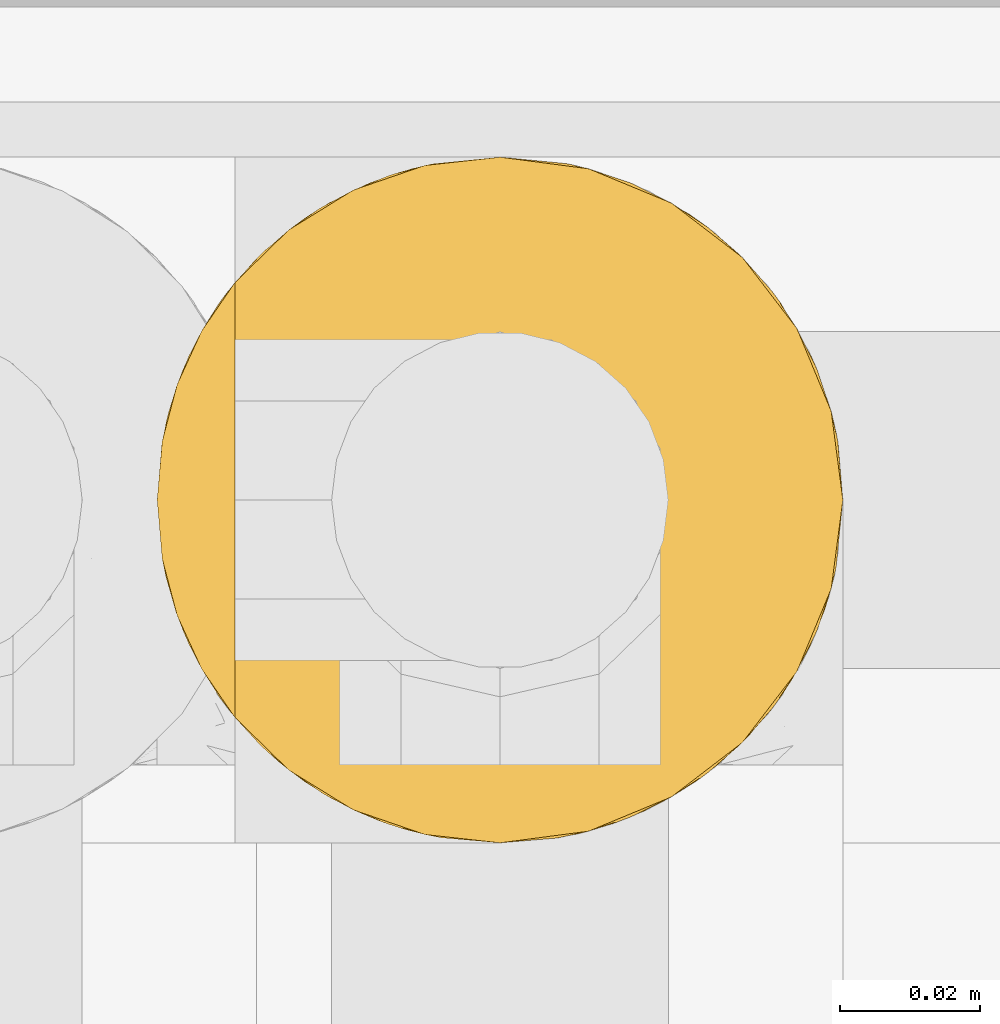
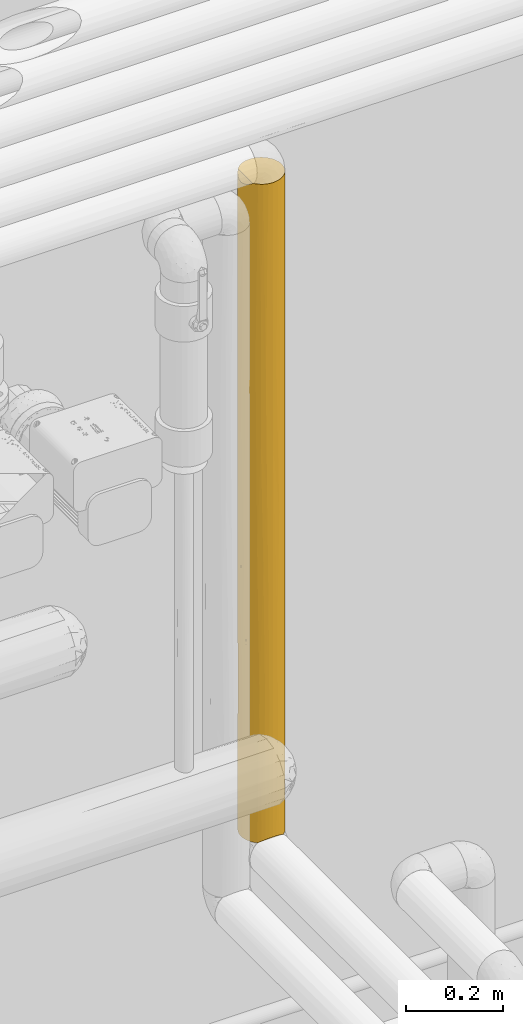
# One storey, part 9 of 94: 1 covering.
"""IFC2X3 building model written with IfcOpenShell, lengths in millimetres."""

from ifc_helpers import new_model, entity, si_unit, converted_unit, derived_unit, direction, frame, origin, place, context, subcontext, project, spatial, faceted_brep, material, element, save


model = new_model("IFC2X3")

# Units and contexts
model_context = context("Model", 3, precision=0.01, world=origin(), true_north=direction((6.123031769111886e-17, 1.0)))
body_context = subcontext(model_context, "Body", "Model", "MODEL_VIEW")
ifc_project = project(units=[si_unit("LENGTHUNIT", "METRE", prefix="MILLI"), si_unit("AREAUNIT", "SQUARE_METRE"), si_unit("VOLUMEUNIT", "CUBIC_METRE"), converted_unit("PLANEANGLEUNIT", "DEGREE", entity("IfcRatioMeasure", 0.017453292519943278), si_unit("PLANEANGLEUNIT", "RADIAN"), dimensions=[0, 0, 0, 0, 0, 0, 0]), si_unit("MASSUNIT", "GRAM", prefix="KILO"), derived_unit("MASSDENSITYUNIT", [(si_unit("MASSUNIT", "GRAM", prefix="KILO"), 1), (si_unit("LENGTHUNIT", "METRE"), -3)]), derived_unit("IONCONCENTRATIONUNIT", [(si_unit("MASSUNIT", "GRAM", prefix="KILO"), 1), (si_unit("LENGTHUNIT", "METRE"), -3)]), derived_unit("MOMENTOFINERTIAUNIT", [(si_unit("LENGTHUNIT", "METRE"), 4)]), si_unit("TIMEUNIT", "SECOND"), si_unit("FREQUENCYUNIT", "HERTZ"), si_unit("THERMODYNAMICTEMPERATUREUNIT", "DEGREE_CELSIUS"), derived_unit("THERMALTRANSMITTANCEUNIT", [(si_unit("MASSUNIT", "GRAM", prefix="KILO"), 1), (si_unit("THERMODYNAMICTEMPERATUREUNIT", "KELVIN"), -1), (si_unit("TIMEUNIT", "SECOND"), -3)]), derived_unit("THERMALCONDUCTANCEUNIT", [(si_unit("MASSUNIT", "GRAM", prefix="KILO"), 1), (si_unit("THERMODYNAMICTEMPERATUREUNIT", "KELVIN"), -1), (si_unit("TIMEUNIT", "SECOND"), -3), (si_unit("LENGTHUNIT", "METRE"), 1)]), derived_unit("VOLUMETRICFLOWRATEUNIT", [(si_unit("LENGTHUNIT", "METRE"), 3), (si_unit("TIMEUNIT", "SECOND"), -1)]), derived_unit("MASSFLOWRATEUNIT", [(si_unit("MASSUNIT", "GRAM", prefix="KILO"), 1), (si_unit("TIMEUNIT", "SECOND"), -1)]), derived_unit("ROTATIONALFREQUENCYUNIT", [(si_unit("TIMEUNIT", "SECOND"), -1)]), si_unit("ELECTRICCURRENTUNIT", "AMPERE"), si_unit("ELECTRICVOLTAGEUNIT", "VOLT"), si_unit("POWERUNIT", "WATT"), si_unit("FORCEUNIT", "NEWTON", prefix="KILO"), si_unit("ILLUMINANCEUNIT", "LUX"), si_unit("LUMINOUSFLUXUNIT", "LUMEN"), si_unit("LUMINOUSINTENSITYUNIT", "CANDELA"), derived_unit("USERDEFINED", [(si_unit("MASSUNIT", "GRAM", prefix="KILO"), -1), (si_unit("LENGTHUNIT", "METRE"), -2), (si_unit("TIMEUNIT", "SECOND"), 3), (si_unit("LUMINOUSFLUXUNIT", "LUMEN"), 1)]), derived_unit("USERDEFINED", [(si_unit("MASSUNIT", "GRAM", prefix="KILO"), 1), (si_unit("TIMEUNIT", "SECOND"), -3), (si_unit("LENGTHUNIT", "METRE"), 3), (si_unit("ELECTRICCURRENTUNIT", "AMPERE"), -2)]), derived_unit("SOUNDPOWERUNIT", [(si_unit("MASSUNIT", "GRAM", prefix="KILO"), 1), (si_unit("TIMEUNIT", "SECOND"), -3), (si_unit("LENGTHUNIT", "METRE"), 2)]), derived_unit("SOUNDPRESSUREUNIT", [(si_unit("MASSUNIT", "GRAM", prefix="KILO"), 1), (si_unit("LENGTHUNIT", "METRE"), -1), (si_unit("TIMEUNIT", "SECOND"), -2)]), derived_unit("LINEARVELOCITYUNIT", [(si_unit("LENGTHUNIT", "METRE"), 1), (si_unit("TIMEUNIT", "SECOND"), -1)]), si_unit("PRESSUREUNIT", "PASCAL"), derived_unit("USERDEFINED", [(si_unit("MASSUNIT", "GRAM", prefix="KILO"), 1), (si_unit("LENGTHUNIT", "METRE"), -2), (si_unit("TIMEUNIT", "SECOND"), -2)]), derived_unit("LINEARFORCEUNIT", [(si_unit("MASSUNIT", "GRAM", prefix="KILO"), 1), (si_unit("TIMEUNIT", "SECOND"), -2)]), derived_unit("PLANARFORCEUNIT", [(si_unit("MASSUNIT", "GRAM", prefix="KILO"), 1), (si_unit("LENGTHUNIT", "METRE"), -1), (si_unit("TIMEUNIT", "SECOND"), -2)]), derived_unit("SPECIFICHEATCAPACITYUNIT", [(si_unit("THERMODYNAMICTEMPERATUREUNIT", "KELVIN"), -1), (si_unit("LENGTHUNIT", "METRE"), 2), (si_unit("TIMEUNIT", "SECOND"), -2)]), derived_unit("HEATINGVALUEUNIT", [(si_unit("LENGTHUNIT", "METRE"), 2), (si_unit("TIMEUNIT", "SECOND"), -2)]), derived_unit("VAPORPERMEABILITYUNIT", [(si_unit("LENGTHUNIT", "METRE"), -1), (si_unit("TIMEUNIT", "SECOND"), 1)]), derived_unit("DYNAMICVISCOSITYUNIT", [(si_unit("MASSUNIT", "GRAM", prefix="KILO"), 1), (si_unit("TIMEUNIT", "SECOND"), -1), (si_unit("LENGTHUNIT", "METRE"), -1)]), derived_unit("THERMALEXPANSIONCOEFFICIENTUNIT", [(si_unit("THERMODYNAMICTEMPERATUREUNIT", "KELVIN"), -1)]), derived_unit("MODULUSOFELASTICITYUNIT", [(si_unit("MASSUNIT", "GRAM", prefix="KILO"), 1), (si_unit("LENGTHUNIT", "METRE"), -1), (si_unit("TIMEUNIT", "SECOND"), -2)]), derived_unit("ISOTHERMALMOISTURECAPACITYUNIT", [(si_unit("LENGTHUNIT", "METRE"), 3), (si_unit("MASSUNIT", "GRAM", prefix="KILO"), -1)]), derived_unit("MOISTUREDIFFUSIVITYUNIT", [(si_unit("TIMEUNIT", "SECOND"), -1), (si_unit("LENGTHUNIT", "METRE"), 2)])], contexts=[model_context])

# Site, building, storey
site_placement = place(None, origin())
site = spatial("IfcSite", under=ifc_project, at=site_placement, Name="Default", CompositionType="ELEMENT")
building_placement = place(site_placement, origin())
building = spatial("IfcBuilding", under=site, at=building_placement, CompositionType="ELEMENT")
storey_placement = place(building_placement, origin())
storey = spatial("IfcBuildingStorey", under=building, at=storey_placement, Name="Niveau 0", CompositionType="ELEMENT", Elevation=0.0)

# Covering
ifc_material = material(Name="Isolation - Laine minérale")
covering_placement = place(storey_placement, frame((-6977.465954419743, 9976.120352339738, 2313.595272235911)))
element("IfcCovering", 1, at=covering_placement, inside=storey, material=ifc_material, Name="Isolation des canalisations:Laine minérale", ObjectType="Isolation des canalisations:Laine minérale", PredefinedType="INSULATION", context=body_context, shape_type="Brep", body=[
    faceted_brep([(2.793596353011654, 39.94049838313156, -1667.5952722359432), (1.5952722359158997, 50.725272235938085, -1667.5952722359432), (3.26933639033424, 63.441051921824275, -1667.5952722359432), (8.17744414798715, 75.29027223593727, -1667.595272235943), (15.985116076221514, 85.46542839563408, -1667.5952722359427), (26.160272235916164, 93.27310032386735, -1667.5952722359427), (38.00949255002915, 98.18120808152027, -1667.5952722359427), (50.72527223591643, 99.85527223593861, -1667.5952722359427), (63.4410519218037, 98.18120808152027, -1667.5952722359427), (75.29027223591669, 93.27310032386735, -1667.5952722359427), (85.46542839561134, 85.46542839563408, -1667.5952722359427), (93.2731003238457, 75.29027223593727, -1667.5952722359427), (98.18120808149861, 63.441051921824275, -1667.5952722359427), (99.85527223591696, 50.725272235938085, -1667.595272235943), (98.65694811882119, 39.94049838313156, -1667.5952722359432), (95.12737949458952, 29.69648789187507, -1667.5952722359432), (89.43799982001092, 20.474956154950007, -1667.5952722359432), (81.86619226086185, 12.725272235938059, -1667.5952722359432), (19.584352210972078, 12.725272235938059, -1667.5952722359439), (12.012544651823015, 20.474956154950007, -1667.5952722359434), (6.323164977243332, 29.69648789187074, -1667.5952722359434), (50.725272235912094, 99.85527223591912, -1.5952722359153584), (39.940498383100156, 98.65694811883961, -1.5952722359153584), (29.6964878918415, 95.12737949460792, -1.5952722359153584), (20.47495615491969, 89.43799982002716, -1.595272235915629), (12.72527223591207, 81.86619226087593, -1.595272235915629), (12.725272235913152, 19.5843522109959, -1.5952722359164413), (20.474956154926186, 12.012544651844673, -1.5952722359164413), (29.696487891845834, 6.323164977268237, -1.5952722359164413), (39.9404983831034, 2.793596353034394, -1.5952722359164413), (50.725272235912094, 1.5952722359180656, -1.5952722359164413), (63.44105192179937, 3.269336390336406, -1.5952722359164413), (75.29027223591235, 8.177444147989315, -1.5952722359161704), (85.465428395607, 15.985116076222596, -1.5952722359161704), (93.27310032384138, 26.16027223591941, -1.5952722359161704), (98.18120808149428, 38.0094925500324, -1.5952722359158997), (99.85527223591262, 50.72527223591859, -1.5952722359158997), (98.18120808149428, 63.441051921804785, -1.595272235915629), (93.27310032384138, 75.29027223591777, -1.595272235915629), (85.465428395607, 85.46542839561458, -1.5952722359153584), (75.29027223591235, 93.27310032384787, -1.5952722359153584), (63.44105192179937, 98.18120808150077, -1.5952722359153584), (34.720895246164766, 97.17542634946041, -367.69281329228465), (3.2338916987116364, 63.30802529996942, -268.7884459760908), (6.1386852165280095, 71.36002830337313, -452.6460438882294), (2.786849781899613, 61.48001782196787, -549.3712596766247), (24.928396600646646, 92.5376879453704, -284.26286925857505), (31.924035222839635, 96.11547367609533, -1431.7376115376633), (41.063469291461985, 98.89586973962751, -1280.7680429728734), (1.5952722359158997, 50.72527223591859, -12.72527223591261), (2.317099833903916, 59.11608534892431, -12.003444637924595), (16.39074917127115, 85.86637958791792, -367.6914331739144), (20.81682326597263, 89.70272187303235, -1299.5746562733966), (22.772959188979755, 91.1285529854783, -953.6300875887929), (31.92403523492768, 96.11547368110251, -1129.7984734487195), (4.4613721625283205, 67.26033951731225, -9.85917230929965), (7.965081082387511, 74.91872078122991, -6.355463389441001), (11.747822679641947, 80.63372131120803, -1338.7354407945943), (1.5952722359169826, 50.72527223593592, -1422.8519419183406), (4.34332158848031, 66.92624609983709, -824.399652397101), (15.505565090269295, 84.97916440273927, -1002.0726118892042), (10.50749548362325, 78.94383586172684, -835.9684655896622), (17.05796237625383, 86.50612111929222, -725.6818331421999), (10.291120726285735, 78.63291082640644, -259.39268025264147), (11.025127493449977, 79.66754939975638, -540.7442464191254), (24.92839666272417, 92.5376879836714, -608.6461596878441), (36.21158922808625, 97.66256983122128, -759.0801205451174), (2.2856698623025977, 58.93269703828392, -1207.2752542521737), (1.5952722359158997, 50.72527223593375, -1253.8881273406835), (1.5952722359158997, 50.72527223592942, -991.698593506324), (10.307917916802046, 78.65723188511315, -1092.358763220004), (50.725272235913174, 99.85527223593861, -246.33824356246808), (50.725272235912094, 99.85527223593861, -491.0818392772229), (5.335070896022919, 69.5265094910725, -1213.271176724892), (50.72527223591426, 99.85527223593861, -688.6218781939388), (50.72527223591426, 99.85527223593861, -980.5684063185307), (50.72527223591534, 99.85527223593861, -1178.1085752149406), (50.72527223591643, 99.85527223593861, -1422.8517716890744), (39.90965406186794, 98.64999762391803, -1008.9987073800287), (1.5952722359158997, 50.72527223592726, -840.1602722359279), (1.5952722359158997, 50.72527223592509, -502.2119328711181), (80.63372126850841, 89.70272182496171, -335.0887081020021), (89.70272186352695, 80.63372121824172, -402.93155429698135), (60.219754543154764, 98.92912795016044, -1352.3270686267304), (60.390217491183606, 98.89523936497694, -1031.9006507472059), (69.52650928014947, 96.11547366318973, -1187.1005418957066), (69.52650931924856, 96.11547364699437, -482.09000129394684), (61.30725381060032, 98.7021267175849, -667.1422020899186), (60.338836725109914, 98.90552003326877, -362.15093628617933), (99.13030016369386, 59.1342062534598, -291.93519834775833), (99.85527223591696, 50.725272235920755, -246.33716766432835), (99.85527223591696, 50.72527223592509, -491.0803315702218), (89.70272184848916, 80.63372123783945, -1311.431094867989), (99.16754066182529, 58.91694665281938, -1203.4405944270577), (96.11547367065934, 69.52650926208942, -1169.1718210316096), (96.1154736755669, 69.52650925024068, -290.94551171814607), (90.93706914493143, 78.95235655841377, -902.7302959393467), (96.11547368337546, 69.52650923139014, -636.2887725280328), (98.94398935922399, 60.14398865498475, -583.0103211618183), (98.26508661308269, 63.123778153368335, -902.7302972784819), (80.63372124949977, 89.70272183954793, -1339.8417299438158), (99.85527223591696, 50.72527223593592, -1422.8499871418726), (85.02936315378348, 85.8960874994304, -1087.2185012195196), (69.90347041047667, 95.95749100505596, -834.5952715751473), (80.63372125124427, 89.70272183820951, -834.5952722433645), (95.30915154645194, 71.3658779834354, -918.4984536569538), (77.80557325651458, 91.7181276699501, -1087.2185009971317), (99.85527223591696, 50.72527223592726, -688.622632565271), (99.85527223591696, 50.72527223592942, -980.5681463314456), (99.85527223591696, 50.725272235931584, -1178.108952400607), (89.7027218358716, 20.816823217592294, -369.61588653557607), (91.12855292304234, 22.772959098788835, -715.5604545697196), (96.11547365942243, 31.92403518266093, -539.3920707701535), (85.8663795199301, 16.390749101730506, -1301.4991099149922), (92.53768790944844, 24.92839654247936, -1060.5443827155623), (86.50612100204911, 17.057962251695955, -943.5087067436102), (78.94383566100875, 10.5074953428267, -833.2220753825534), (71.36002820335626, 6.138685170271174, -1216.5444976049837), (79.66754928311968, 11.02512740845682, -1128.4462950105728), (50.725272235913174, 1.595272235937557, -246.34055623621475), (58.93269663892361, 2.2856697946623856, -461.91528125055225), (66.92624575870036, 4.343321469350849, -844.7908847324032), (96.11547366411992, 31.924035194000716, -237.45293311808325), (98.89586973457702, 41.06346926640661, -388.42250197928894), (61.480017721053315, 2.786849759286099, -1119.8192809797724), (97.17542632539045, 34.72089517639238, -1301.497729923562), (97.66256978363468, 36.211589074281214, -910.1104235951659), (78.63291077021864, 10.291120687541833, -1409.7978624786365), (92.53768791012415, 24.928396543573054, -1384.9276739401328), (74.9187207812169, 7.965081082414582, -1662.835081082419), (63.30802526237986, 3.233891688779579, -1400.402096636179), (59.116085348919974, 2.317099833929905, -1657.1870998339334), (67.26033951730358, 4.461372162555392, -1659.3313721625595), (50.725272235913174, 1.595272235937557, -339.5460958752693), (50.72527223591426, 1.595272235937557, -677.4899367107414), (69.52650925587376, 5.335070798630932, -455.9193614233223), (50.72527223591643, 1.595272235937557, -1656.4652722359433), (80.63372123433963, 11.747822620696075, -330.4551009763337), (78.65723153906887, 10.30791767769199, -576.8317764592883), (84.97916422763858, 15.505564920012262, -667.1179248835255), (98.64999761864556, 39.909654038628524, -660.191838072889), (50.72527223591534, 1.595272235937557, -1166.9805047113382), (50.72527223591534, 1.595272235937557, -1411.7190858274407), (34.720895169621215, 4.275118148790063, -487.7429594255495), (16.390749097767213, 15.584164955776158, -444.7551294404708), (10.506288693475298, 22.508428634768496, -832.7707136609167), (19.04945598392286, 13.169985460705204, -929.4165024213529), (29.98538466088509, 6.187490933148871, -976.8540027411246), (22.752175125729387, 10.336378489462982, -1288.6686080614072), (12.398209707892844, 19.987784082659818, -1241.487724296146), (33.26512912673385, 4.80250770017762, -1310.7221007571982), (26.531823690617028, 7.965081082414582, -1662.8350810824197), (4.461372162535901, 34.190204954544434, -9.859172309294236), (6.138382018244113, 30.091171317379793, -451.15342591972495), (7.965081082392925, 26.5318236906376, -6.355463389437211), (42.0892145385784, 2.3602496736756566, -1324.1702413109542), (40.21480976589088, 2.7326990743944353, -1060.9532408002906), (10.565316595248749, 22.424479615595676, -289.3072093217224), (25.334995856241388, 8.664711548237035, -662.0492316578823), (25.4612308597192, 8.588766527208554, -316.81688426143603), (2.735512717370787, 40.2019704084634, -338.7389882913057), (2.864120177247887, 39.631714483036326, -671.186099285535), (4.275118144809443, 34.72089518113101, -1167.9770775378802), (10.34787225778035, 22.735587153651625, -560.9856995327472), (2.3170998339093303, 42.33445912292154, -12.003444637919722), (5.397671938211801, 31.773608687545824, -869.0939106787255), (34.19020495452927, 4.461372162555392, -1659.33137216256), (37.088589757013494, 3.5257193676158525, -777.5238016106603), (42.33445912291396, 2.317099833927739, -1657.187099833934)], [[[0, 1, 2, 3, 4, 5, 6, 7, 8, 9, 10, 11, 12, 13, 14, 15, 16, 17, 18, 19, 20]], [[21, 22, 23, 24, 25, 26, 27, 28, 29, 30, 31, 32, 33, 34, 35, 36, 37, 38, 39, 40, 41]], [[23, 22, 42]], [[43, 44, 45]], [[23, 46, 24]], [[6, 47, 48]], [[49, 50, 43]], [[51, 25, 24]], [[52, 53, 54]], [[44, 55, 56]], [[52, 4, 57]], [[24, 46, 51]], [[2, 1, 58]], [[44, 59, 45]], [[60, 61, 62]], [[63, 56, 25]], [[64, 63, 51]], [[61, 59, 44]], [[65, 42, 66]], [[42, 46, 23]], [[67, 58, 68, 69]], [[4, 52, 5]], [[70, 59, 61]], [[52, 54, 47]], [[65, 46, 42]], [[54, 53, 66]], [[61, 44, 64]], [[43, 50, 55]], [[22, 21, 71, 72]], [[73, 3, 2]], [[51, 65, 62]], [[47, 6, 5]], [[22, 72, 42]], [[66, 72, 74, 75]], [[4, 3, 57]], [[53, 65, 66]], [[48, 75, 76, 77]], [[58, 67, 2]], [[77, 7, 6]], [[51, 46, 65]], [[3, 73, 57]], [[60, 70, 61]], [[72, 66, 42]], [[54, 78, 48]], [[67, 59, 73]], [[45, 69, 79, 80]], [[60, 52, 57]], [[62, 65, 53]], [[60, 62, 53]], [[62, 61, 64]], [[52, 60, 53]], [[70, 60, 57]], [[57, 73, 70]], [[59, 70, 73]], [[69, 45, 59]], [[80, 49, 43]], [[44, 43, 55]], [[80, 43, 45]], [[52, 47, 5]], [[48, 47, 54]], [[54, 66, 78]], [[6, 48, 77]], [[66, 75, 78]], [[75, 48, 78]], [[63, 44, 56]], [[62, 64, 51]], [[51, 63, 25]], [[44, 63, 64]], [[59, 67, 69]], [[2, 67, 73]], [[81, 39, 82]], [[83, 84, 85]], [[8, 83, 85]], [[8, 85, 9]], [[41, 40, 86]], [[87, 88, 86]], [[89, 36, 90, 91]], [[84, 74, 87]], [[11, 10, 92]], [[93, 12, 94]], [[38, 95, 82]], [[96, 82, 97]], [[95, 89, 98]], [[97, 98, 99]], [[83, 7, 77, 76]], [[12, 11, 94]], [[100, 92, 10]], [[38, 37, 95]], [[38, 82, 39]], [[11, 92, 94]], [[92, 96, 94]], [[12, 101, 13]], [[100, 102, 92]], [[103, 85, 84]], [[41, 71, 21]], [[39, 81, 40]], [[95, 98, 97]], [[81, 104, 86]], [[10, 9, 100]], [[97, 99, 105]], [[104, 81, 82]], [[87, 74, 88]], [[93, 94, 99]], [[86, 40, 81]], [[102, 96, 92]], [[82, 96, 104]], [[9, 85, 100]], [[102, 106, 104]], [[89, 95, 37]], [[82, 95, 97]], [[36, 89, 37]], [[89, 91, 98]], [[98, 91, 107, 108]], [[99, 94, 105]], [[98, 108, 99]], [[93, 108, 109, 101]], [[108, 93, 99]], [[12, 93, 101]], [[106, 102, 100]], [[96, 102, 104]], [[100, 85, 106]], [[103, 106, 85]], [[7, 83, 8]], [[84, 83, 76]], [[84, 76, 75, 74]], [[103, 87, 86]], [[86, 104, 103]], [[106, 103, 104]], [[84, 87, 103]], [[88, 74, 72, 71]], [[71, 41, 88]], [[41, 86, 88]], [[94, 96, 105]], [[97, 105, 96]], [[110, 111, 112]], [[113, 114, 115]], [[116, 117, 118]], [[31, 119, 120]], [[116, 121, 117]], [[112, 122, 110]], [[110, 34, 33]], [[35, 122, 123]], [[117, 121, 124]], [[114, 125, 126]], [[118, 127, 113]], [[112, 111, 126]], [[128, 16, 15]], [[127, 129, 17]], [[16, 128, 113]], [[14, 13, 101, 109]], [[130, 131, 132]], [[129, 117, 132]], [[114, 128, 125]], [[130, 117, 124]], [[120, 119, 133, 134]], [[31, 135, 32]], [[15, 14, 125]], [[136, 131, 130]], [[17, 16, 113]], [[110, 33, 137]], [[138, 121, 116]], [[115, 139, 116]], [[35, 90, 36]], [[122, 35, 34]], [[14, 109, 125]], [[126, 109, 108, 107]], [[33, 32, 137]], [[111, 114, 126]], [[31, 30, 119]], [[125, 128, 15]], [[123, 107, 91, 90]], [[113, 128, 114]], [[32, 135, 137]], [[139, 138, 116]], [[109, 126, 125]], [[112, 140, 123]], [[120, 121, 135]], [[124, 134, 141]], [[139, 110, 137]], [[115, 114, 111]], [[139, 115, 111]], [[115, 116, 118]], [[110, 139, 111]], [[138, 139, 137]], [[137, 135, 138]], [[121, 138, 135]], [[134, 124, 121]], [[130, 141, 142, 136]], [[117, 130, 132]], [[141, 130, 124]], [[110, 122, 34]], [[123, 122, 112]], [[112, 126, 140]], [[35, 123, 90]], [[126, 107, 140]], [[107, 123, 140]], [[127, 117, 129]], [[115, 118, 113]], [[113, 127, 17]], [[117, 127, 118]], [[121, 120, 134]], [[31, 120, 135]], [[29, 143, 133]], [[144, 145, 146]], [[144, 27, 26]], [[147, 146, 148]], [[148, 146, 149]], [[150, 148, 151]], [[147, 148, 150]], [[28, 143, 29]], [[29, 133, 119, 30]], [[152, 153, 154]], [[155, 156, 150]], [[149, 18, 148]], [[150, 156, 147]], [[155, 141, 156]], [[144, 26, 157]], [[158, 143, 159]], [[153, 157, 154]], [[160, 80, 161]], [[0, 162, 68]], [[158, 146, 147]], [[151, 148, 18]], [[163, 144, 157]], [[160, 152, 164]], [[149, 162, 20]], [[162, 0, 20]], [[20, 19, 149]], [[0, 68, 58, 1]], [[165, 153, 161]], [[160, 161, 153]], [[161, 80, 79]], [[159, 27, 144]], [[166, 150, 151]], [[167, 147, 156]], [[49, 80, 160]], [[79, 162, 161]], [[165, 161, 162]], [[167, 158, 147]], [[149, 146, 145]], [[149, 145, 165]], [[18, 149, 19]], [[159, 143, 28]], [[144, 146, 158]], [[27, 159, 28]], [[144, 158, 159]], [[152, 160, 153]], [[160, 164, 49]], [[168, 136, 142]], [[168, 142, 155]], [[141, 134, 156]], [[167, 134, 143]], [[134, 167, 156]], [[158, 167, 143]], [[155, 166, 168]], [[155, 150, 166]], [[141, 155, 142]], [[162, 79, 69, 68]], [[143, 134, 133]], [[154, 157, 26]], [[163, 157, 153]], [[165, 163, 153]], [[144, 163, 145]], [[149, 165, 162]], [[165, 145, 163]], [[132, 131, 136, 168, 166, 151, 18, 17, 129]], [[49, 164, 152, 154, 26, 25, 56, 55, 50]]]),
])

save(model, "model.ifc")
